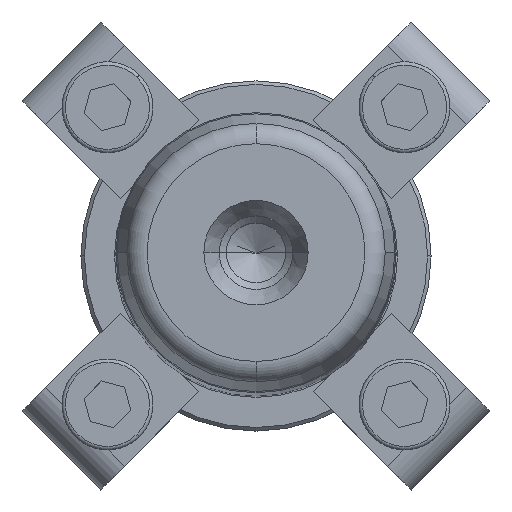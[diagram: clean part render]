
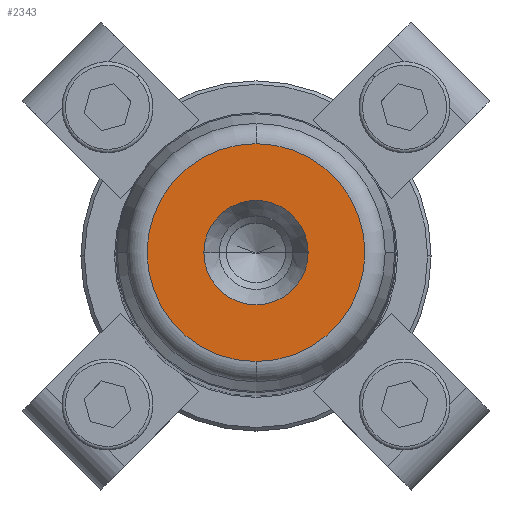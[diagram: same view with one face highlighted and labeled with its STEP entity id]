
A CAD part, top view. The second image highlights one B-rep face of the part: STEP entity #2343.
In plain terms, the highlighted planar face has unit normal (0, 0, 1).
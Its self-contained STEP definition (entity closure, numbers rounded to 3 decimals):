
#431=CARTESIAN_POINT('',(7.45,0.,280.0));
#432=VERTEX_POINT('',#431);
#439=CARTESIAN_POINT('',(-7.45,0.,280.0));
#440=VERTEX_POINT('',#439);
#441=CARTESIAN_POINT('',(0.0,0.,280.0));
#442=DIRECTION('',(0.0,0.0,1.0));
#443=DIRECTION('',(1.0,0.0,0.0));
#444=AXIS2_PLACEMENT_3D('',#441,#442,#443);
#445=CIRCLE('',#444,7.45);
#446=EDGE_CURVE('',#432,#440,#445,.T.);
#463=CARTESIAN_POINT('',(0.0,-15.554,280.0));
#464=VERTEX_POINT('',#463);
#474=CARTESIAN_POINT('',(0.,15.554,280.0));
#475=VERTEX_POINT('',#474);
#476=CARTESIAN_POINT('',(0.0,0.,280.0));
#477=DIRECTION('',(0.0,0.0,1.0));
#478=DIRECTION('',(1.0,0.0,0.0));
#479=AXIS2_PLACEMENT_3D('',#476,#477,#478);
#480=CIRCLE('',#479,15.554);
#481=EDGE_CURVE('',#475,#464,#480,.T.);
#2304=CARTESIAN_POINT('',(15.554,0.,280.0));
#2305=VERTEX_POINT('',#2304);
#2306=CARTESIAN_POINT('',(0.0,0.,280.0));
#2307=DIRECTION('',(0.0,0.0,1.0));
#2308=DIRECTION('',(1.0,0.0,0.0));
#2309=AXIS2_PLACEMENT_3D('',#2306,#2307,#2308);
#2310=CIRCLE('',#2309,15.554);
#2311=EDGE_CURVE('',#2305,#475,#2310,.T.);
#2313=CARTESIAN_POINT('',(0.0,0.,280.0));
#2314=DIRECTION('',(0.0,0.0,1.0));
#2315=DIRECTION('',(1.0,0.0,0.0));
#2316=AXIS2_PLACEMENT_3D('',#2313,#2314,#2315);
#2317=CIRCLE('',#2316,15.554);
#2318=EDGE_CURVE('',#464,#2305,#2317,.T.);
#2323=CARTESIAN_POINT('',(11.502,0.,280.0));
#2324=DIRECTION('',(0.0,0.0,1.0));
#2325=DIRECTION('',(0.0,-1.0,0.0));
#2326=AXIS2_PLACEMENT_3D('',#2323,#2324,#2325);
#2327=PLANE('',#2326);
#2328=ORIENTED_EDGE('',*,*,#2311,.T.);
#2329=ORIENTED_EDGE('',*,*,#481,.T.);
#2330=ORIENTED_EDGE('',*,*,#2318,.T.);
#2331=EDGE_LOOP('',(#2328,#2329,#2330));
#2332=FACE_OUTER_BOUND('',#2331,.T.);
#2333=ORIENTED_EDGE('',*,*,#446,.F.);
#2334=CARTESIAN_POINT('',(0.0,0.,280.0));
#2335=DIRECTION('',(0.0,0.0,1.0));
#2336=DIRECTION('',(1.0,0.0,0.0));
#2337=AXIS2_PLACEMENT_3D('',#2334,#2335,#2336);
#2338=CIRCLE('',#2337,7.45);
#2339=EDGE_CURVE('',#440,#432,#2338,.T.);
#2340=ORIENTED_EDGE('',*,*,#2339,.F.);
#2341=EDGE_LOOP('',(#2333,#2340));
#2342=FACE_BOUND('',#2341,.T.);
#2343=ADVANCED_FACE('',(#2332,#2342),#2327,.T.);
